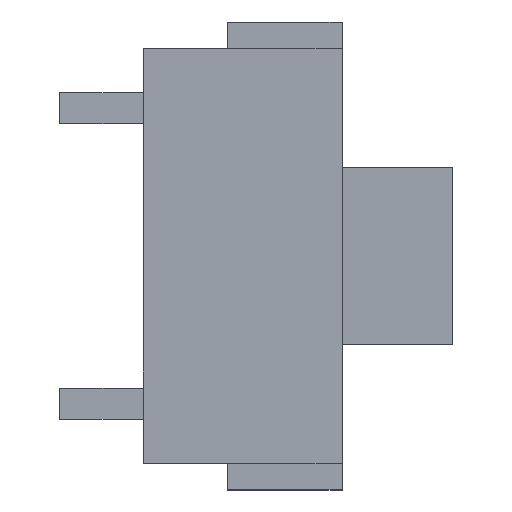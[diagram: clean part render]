
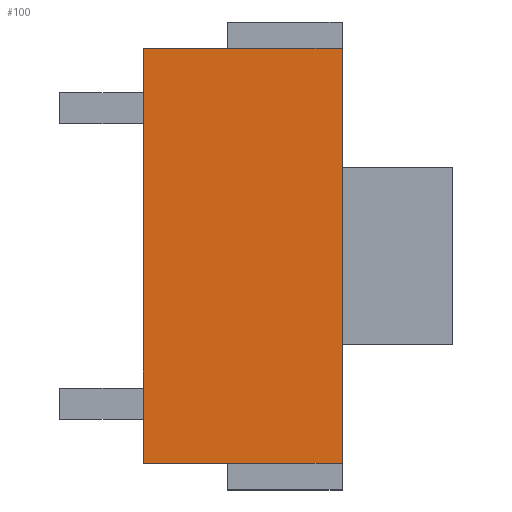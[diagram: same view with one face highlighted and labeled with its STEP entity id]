
A CAD part, top view. The second image highlights one B-rep face of the part: STEP entity #100.
In plain terms, the highlighted planar face has unit normal (0, 0, 1).
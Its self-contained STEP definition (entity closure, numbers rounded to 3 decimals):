
#5 = CARTESIAN_POINT('',(-0.65,-2.35,1.9));
#6 = CARTESIAN_POINT('',(1.6,-2.35,1.9));
#7 = CARTESIAN_POINT('',(1.6,2.35,1.9));
#8 = CARTESIAN_POINT('',(-0.65,2.35,1.9));
#13 = VERTEX_POINT('',#5);
#14 = VERTEX_POINT('',#6);
#15 = VERTEX_POINT('',#7);
#16 = VERTEX_POINT('',#8);
#37 = DIRECTION('',(1.,0.,0.));
#38 = VECTOR('',#37,2.25);
#39 = CARTESIAN_POINT('',(-0.65,-2.35,1.9));
#40 = LINE('',#39,#38);
#41 = EDGE_CURVE('',#13,#14,#40,.T.);
#42 = DIRECTION('',(0.,1.,0.));
#43 = VECTOR('',#42,4.7);
#44 = CARTESIAN_POINT('',(1.6,-2.35,1.9));
#45 = LINE('',#44,#43);
#46 = EDGE_CURVE('',#14,#15,#45,.T.);
#47 = DIRECTION('',(-1.,0.,0.));
#48 = VECTOR('',#47,2.25);
#49 = CARTESIAN_POINT('',(1.6,2.35,1.9));
#50 = LINE('',#49,#48);
#51 = EDGE_CURVE('',#15,#16,#50,.T.);
#52 = DIRECTION('',(0.,-1.,0.));
#53 = VECTOR('',#52,4.7);
#54 = CARTESIAN_POINT('',(-0.65,2.35,1.9));
#55 = LINE('',#54,#53);
#56 = EDGE_CURVE('',#16,#13,#55,.T.);
#89 = ORIENTED_EDGE('',*,*,#41,.T.);
#90 = ORIENTED_EDGE('',*,*,#46,.T.);
#91 = ORIENTED_EDGE('',*,*,#51,.T.);
#92 = ORIENTED_EDGE('',*,*,#56,.T.);
#93 = EDGE_LOOP('',(#89,#90,#91,#92));
#94 = FACE_OUTER_BOUND('',#93,.T.);
#95 = CARTESIAN_POINT('',(-0.65,-2.35,1.9));
#96 = DIRECTION('',(0.0,0.0,1.0));
#97 = DIRECTION('',(1.0,0.0,0.0));
#98 = AXIS2_PLACEMENT_3D('',#95,#96,#97);
#99 = PLANE('',#98);
#100 = ADVANCED_FACE('',(#94),#99,.T.);
